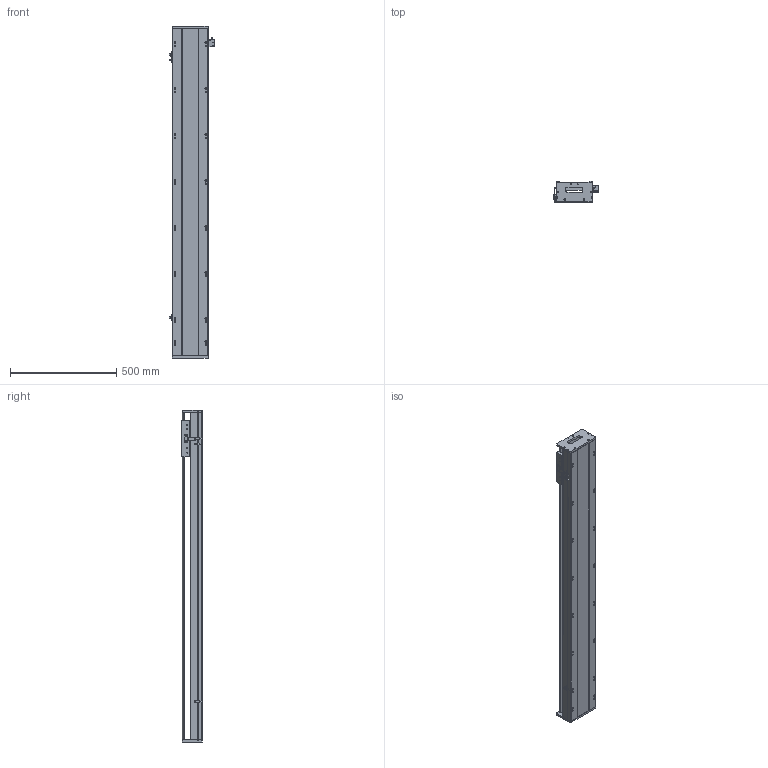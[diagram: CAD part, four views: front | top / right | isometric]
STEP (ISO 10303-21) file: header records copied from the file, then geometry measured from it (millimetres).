
FILE_DESCRIPTION (( 'STEP AP203' ), '1' );
FILE_NAME ('SKR17S-C1-S1290（简）.STEP', '2022-09-29T05:45:21', ( '' ), ( '' ), 'SwSTEP 2.0', 'SolidWorks 2018', '' );
FILE_SCHEMA (( 'CONFIG_CONTROL_DESIGN' ));
Length unit declared in the file: millimetre
Products named in the file (8): 感应片（SKR12S-14S-17S）; SKR17S-C1-S1290（简）; SKR17滑台-170L（简）; SKR17菁釱-C1-S1290(潠); SKR17耜啣; 棠掑假蚾輸; SIKO棠掑; EE-SX672
Assembly tree (10 placements, depth 2):
  SKR17S-C1-S1290（简）
    SKR17菁釱-C1-S1290(潠)
    SKR17滑台-170L（简）
    SIKO棠掑
    EE-SX672  x3
    SKR17耜啣  x2
    棠掑假蚾輸
    感应片（SKR12S-14S-17S）
Bounding box: 212.7 x 97 x 1560 mm (x, y, z)
Volume: 12157504.8 mm3; surface area: 1509500.3 mm2
Topology: 11 solids, 11 shells, 1185 faces, 3284 edges, 2113 vertices
Faces by surface type: cylinder 566, plane 495, cone 124
Entity records: 36230 total; most frequent: CARTESIAN_POINT 9593, ORIENTED_EDGE 5580, DIRECTION 5168, EDGE_CURVE 2790, AXIS2_PLACEMENT_3D 1840, VERTEX_POINT 1817, VECTOR 1488, LINE 1488
